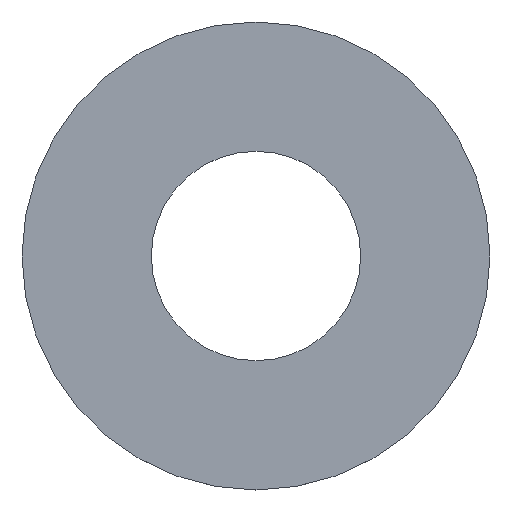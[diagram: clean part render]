
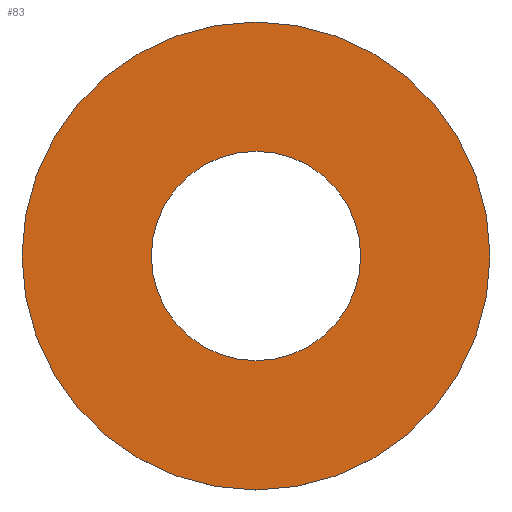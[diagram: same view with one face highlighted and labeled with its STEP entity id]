
A CAD part, top view. The second image highlights one B-rep face of the part: STEP entity #83.
In plain terms, the highlighted planar face has unit normal (0, 0, 1).
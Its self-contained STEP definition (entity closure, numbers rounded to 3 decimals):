
#33=FACE_BOUND('',#44,.T.);
#35=PLANE('',#114);
#39=FACE_OUTER_BOUND('',#43,.T.);
#43=EDGE_LOOP('',(#75));
#44=EDGE_LOOP('',(#76));
#51=CIRCLE('',#109,4.25);
#53=CIRCLE('',#112,9.5);
#57=VERTEX_POINT('',#156);
#59=VERTEX_POINT('',#162);
#61=EDGE_CURVE('',#57,#57,#51,.T.);
#64=EDGE_CURVE('',#59,#59,#53,.T.);
#75=ORIENTED_EDGE('',*,*,#64,.T.);
#76=ORIENTED_EDGE('',*,*,#61,.T.);
#83=ADVANCED_FACE('',(#39,#33),#35,.T.);
#109=AXIS2_PLACEMENT_3D('',#157,#126,#127);
#112=AXIS2_PLACEMENT_3D('',#163,#133,#134);
#114=AXIS2_PLACEMENT_3D('',#167,#138,#139);
#126=DIRECTION('center_axis',(0.,0.,-1.));
#127=DIRECTION('ref_axis',(-1.,0.,0.));
#133=DIRECTION('center_axis',(0.,0.,1.));
#134=DIRECTION('ref_axis',(1.,0.,0.));
#138=DIRECTION('center_axis',(0.,0.,1.));
#139=DIRECTION('ref_axis',(1.,0.,0.));
#156=CARTESIAN_POINT('',(4.25,0.,0.25));
#157=CARTESIAN_POINT('Origin',(0.,0.,0.25));
#162=CARTESIAN_POINT('',(-9.5,0.,0.25));
#163=CARTESIAN_POINT('Origin',(0.,0.,0.25));
#167=CARTESIAN_POINT('Origin',(0.,0.,0.25));
